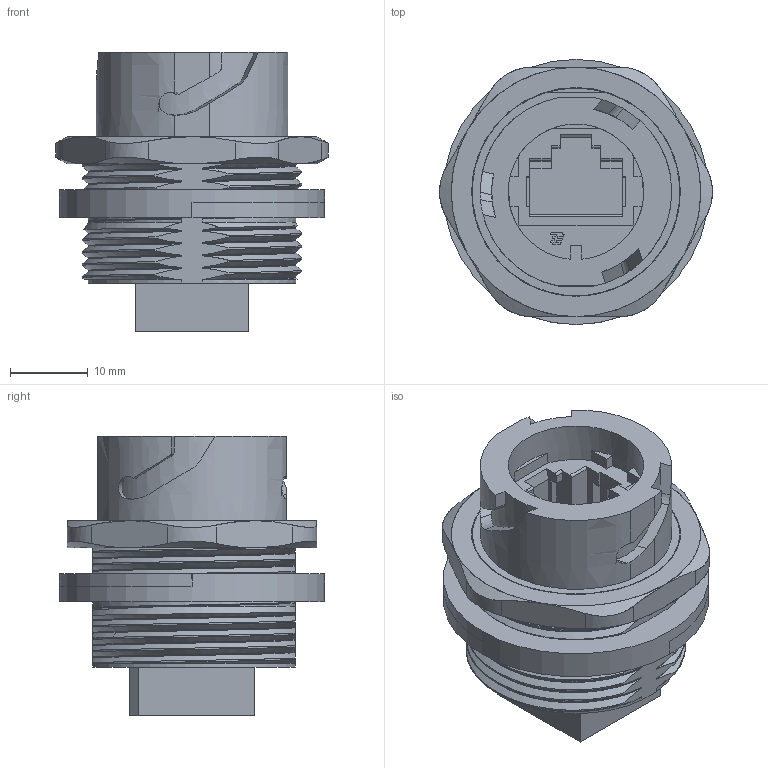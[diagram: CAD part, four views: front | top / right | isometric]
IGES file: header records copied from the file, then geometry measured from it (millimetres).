
Start section:  PTC IGES file: c-2008615-1-a-3d.igs
Global section: file name: c-2008615-1-a-3d.igs; native system: Pro/ENGINEER by Parametric Technology Corporation; preprocessor: 2008380; author: workeradm; organization: Unknown; units: millimetre
Bounding box: 35.01 x 34 x 35.8 mm (x, y, z)
Surface area: 7216.4 mm2 (no closed solid volume)
Topology: 0 solids, 0 shells, 311 faces, 1814 edges, 1814 vertices
Faces by surface type: bspline 227, revolution 84
